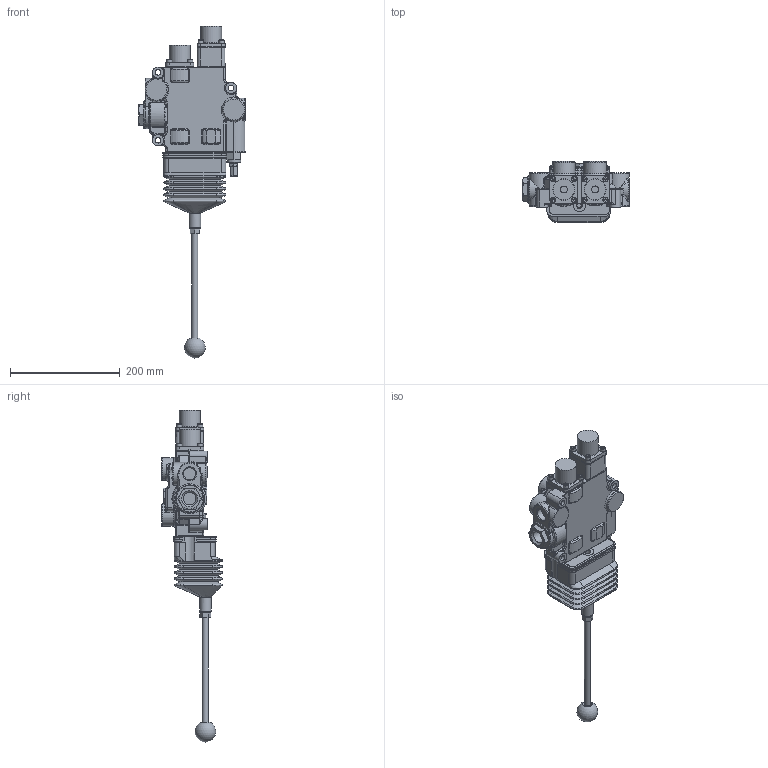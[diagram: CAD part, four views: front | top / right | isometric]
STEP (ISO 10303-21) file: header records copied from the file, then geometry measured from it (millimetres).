
FILE_DESCRIPTION((''),'2;1');
FILE_NAME('C:\Vault\Workspace\z_ShellModels\RD5000\RD522GCGA5A4C6_Shell.stp','2012-03-19T09:11:26',('PetersW'),(''),'Autodesk Inventor 2012','Autodesk Inventor 2012','');
FILE_SCHEMA(('AUTOMOTIVE_DESIGN { 1 0 10303 214 1 1 1 1 }'));
Length unit declared in the file: inch
Products named in the file (1): Part2
Bounding box: 194.2 x 111.12 x 605.59 mm (x, y, z)
Volume: 1651957.8 mm3; surface area: 330238.6 mm2
Topology: 1 solids, 22 shells, 1683 faces, 4066 edges, 2477 vertices
Faces by surface type: plane 626, cylinder 398, bspline 244, cone 208, torus 181, sphere 26
Full cylindrical faces by diameter (mm): 4.978 x16, 6.35 x8, 6.731 x24, 8.382 x2, 9.398 x1, 9.525 x8, 10.312 x3, 11.1 x2, 11.328 x1, 12.7 x2, 16.51 x2, 17.856 x4, 19.837 x1, 20.638 x2, 21.082 x1, 22.225 x4, 22.479 x1, 23.012 x1, 23.52 x2, 25.4 x5, 30.48 x1, 33.68 x2, 34.138 x1, 38.252 x2, 41.275 x5, 48.768 x1
Entity records: 60784 total; most frequent: CARTESIAN_POINT 22730, ORIENTED_EDGE 7490, DIRECTION 7244, EDGE_CURVE 3745, AXIS2_PLACEMENT_3D 2809, VERTEX_POINT 2346, EDGE_LOOP 1955, STYLED_ITEM 1713
